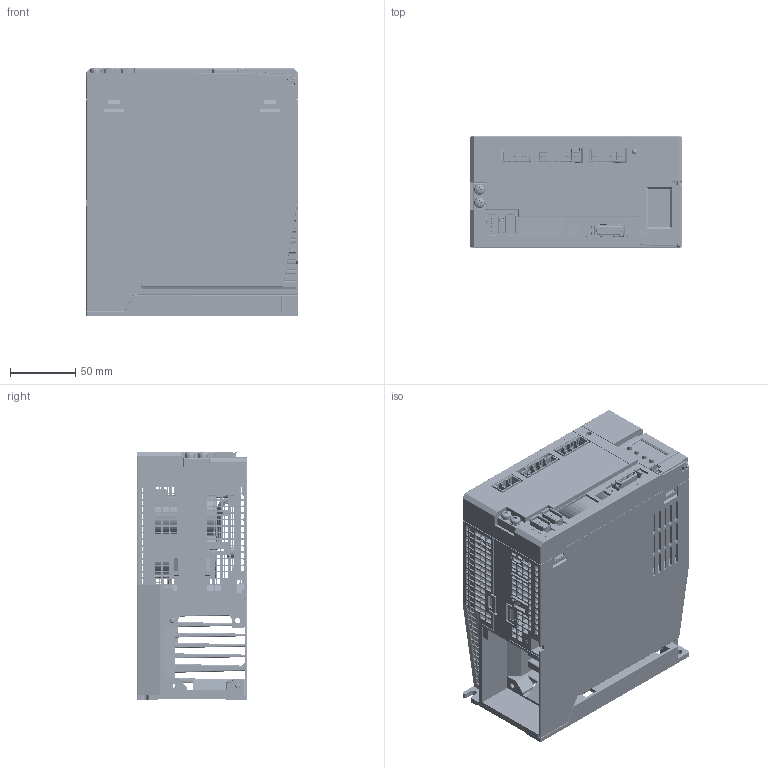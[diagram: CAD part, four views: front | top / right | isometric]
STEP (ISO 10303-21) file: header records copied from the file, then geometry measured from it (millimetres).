
FILE_DESCRIPTION((''),'2;1');
FILE_NAME('C:\Documents and Settings\11254\桌面\SDP給客戶\SDP-C\SDP-C.stp','2016-10-22T14:30:01',('11254'),(''),'Autodesk Inventor 2008','Autodesk Inventor 2008','');
FILE_SCHEMA(('AUTOMOTIVE_DESIGN { 1 0 10303 214 1 1 1 1 }'));
Length unit declared in the file: millimetre
Products named in the file (2): SDP-C; SDP-C_6
Assembly tree (1 placements, depth 2):
  SDP-C
    SDP-C_6
Bounding box: 162 x 85 x 190.4 mm (x, y, z)
Volume: 789820.7 mm3; surface area: 506739.3 mm2
Topology: 1 solids, 2 shells, 13117 faces, 37441 edges, 24575 vertices
Faces by surface type: plane 10434, cylinder 2042, bspline 453, sphere 92, torus 50, cone 46
Full cylindrical faces by diameter (mm): 0.415 x5, 0.5 x6, 0.6 x4, 0.737 x47, 0.738 x1, 0.762 x1, 0.8 x54, 0.822 x1, 0.85 x20, 1 x2, 1.15 x6, 1.5 x30, 1.679 x10, 1.97 x12, 2 x9, 2.1 x1, 2.2 x2, 2.7 x2, 2.8 x2, 3 x16, 3.2 x1, 3.4 x4, 3.5 x9, 3.621 x2, 3.8 x2, 3.9 x1, 4 x26, 4.2 x5, 4.3 x2, 4.33 x1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
Entity records: 430897 total; most frequent: CARTESIAN_POINT 86510, ORIENTED_EDGE 73908, DIRECTION 66022, EDGE_CURVE 36954, VECTOR 31434, LINE 31434, VERTEX_POINT 24485, AXIS2_PLACEMENT_3D 17294
